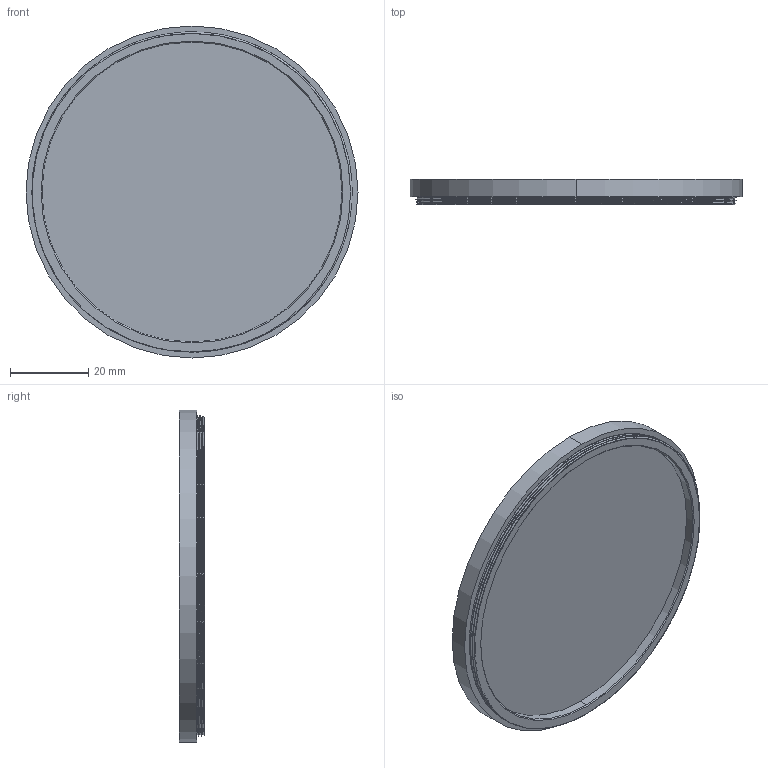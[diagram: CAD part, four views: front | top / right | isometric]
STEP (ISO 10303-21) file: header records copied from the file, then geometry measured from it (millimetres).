
FILE_DESCRIPTION (( 'STEP AP214' ), '1' );
FILE_NAME ('M82 x P0.75.STEP', '2023-01-19T08:18:25', ( '' ), ( '' ), 'SwSTEP 2.0', 'SolidWorks 2021', '' );
FILE_SCHEMA (( 'AUTOMOTIVE_DESIGN' ));
Length unit declared in the file: millimetre
Products named in the file (1): M82 x P0.75
Bounding box: 85 x 6.5 x 85 mm (x, y, z)
Volume: 6397.5 mm3; surface area: 17098.2 mm2
Topology: 3 solids, 3 shells, 45 faces, 103 edges, 68 vertices
Faces by surface type: cylinder 24, plane 11, bspline 8, cone 2
Entity records: 2868 total; most frequent: CARTESIAN_POINT 1897, ORIENTED_EDGE 206, DIRECTION 170, EDGE_CURVE 103, AXIS2_PLACEMENT_3D 72, VERTEX_POINT 68, EDGE_LOOP 53, ADVANCED_FACE 45
